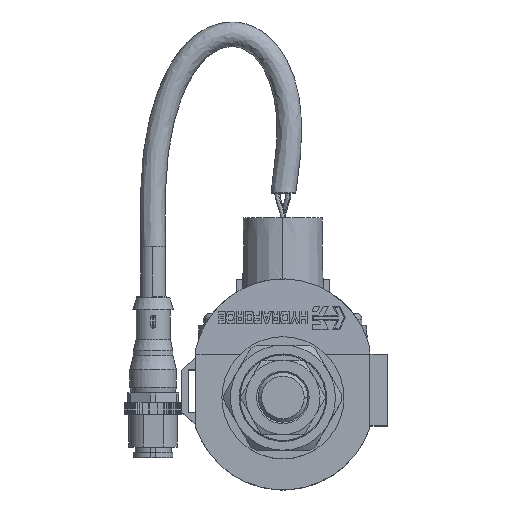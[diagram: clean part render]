
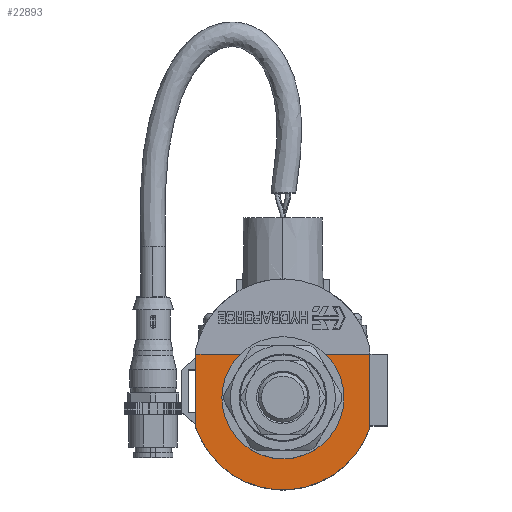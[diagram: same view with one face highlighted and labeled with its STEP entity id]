
A CAD part, top view. The second image highlights one B-rep face of the part: STEP entity #22893.
In plain terms, the highlighted planar face has unit normal (0, 0, 1).
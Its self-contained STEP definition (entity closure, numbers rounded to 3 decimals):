
#5110=DIRECTION('',(-1.,0.,0.));
#5111=VECTOR('',#5110,11.062);
#5112=CARTESIAN_POINT('',(-11.214,11.252,24.384));
#5113=LINE('',#5112,#5111);
#7405=CARTESIAN_POINT('',(0.,0.,24.384));
#7406=DIRECTION('',(0.,0.,1.));
#7407=DIRECTION('',(-0.803,0.596,0.));
#7408=AXIS2_PLACEMENT_3D('',#7405,#7406,#7407);
#7410=CARTESIAN_POINT('',(0.,0.,24.384));
#7411=DIRECTION('',(0.,0.,1.));
#7412=DIRECTION('',(-1.,0.,0.));
#7413=AXIS2_PLACEMENT_3D('',#7410,#7411,#7412);
#7415=CARTESIAN_POINT('',(0.,0.,24.384));
#7416=DIRECTION('',(0.,0.,1.));
#7417=DIRECTION('',(1.,0.,0.));
#7418=AXIS2_PLACEMENT_3D('',#7415,#7416,#7417);
#7420=DIRECTION('',(0.,1.,0.));
#7421=VECTOR('',#7420,2.921);
#7422=CARTESIAN_POINT('',(11.214,8.331,24.384));
#7423=LINE('',#7422,#7421);
#7424=DIRECTION('',(1.,0.,0.));
#7425=VECTOR('',#7424,11.062);
#7426=CARTESIAN_POINT('',(11.214,11.252,24.384));
#7427=LINE('',#7426,#7425);
#7428=DIRECTION('',(0.,-1.,0.));
#7429=VECTOR('',#7428,18.923);
#7430=CARTESIAN_POINT('',(22.276,11.252,24.384));
#7431=LINE('',#7430,#7429);
#7432=CARTESIAN_POINT('',(0.,0.,24.384));
#7433=DIRECTION('',(0.,0.,-1.));
#7434=DIRECTION('',(0.946,-0.326,0.));
#7435=AXIS2_PLACEMENT_3D('',#7432,#7433,#7434);
#7437=DIRECTION('',(0.,1.,0.));
#7438=VECTOR('',#7437,18.923);
#7439=CARTESIAN_POINT('',(-22.276,-7.671,24.384));
#7440=LINE('',#7439,#7438);
#7441=DIRECTION('',(0.,-1.,0.));
#7442=VECTOR('',#7441,2.921);
#7443=CARTESIAN_POINT('',(-11.214,11.252,24.384));
#7444=LINE('',#7443,#7442);
#18833=CARTESIAN_POINT('',(11.214,11.252,24.384));
#18834=CARTESIAN_POINT('',(-11.214,11.252,24.384));
#18835=VERTEX_POINT('',#18833);
#18836=VERTEX_POINT('',#18834);
#18837=CARTESIAN_POINT('',(-22.276,11.252,24.384));
#18838=VERTEX_POINT('',#18837);
#18846=CARTESIAN_POINT('',(22.276,11.252,24.384));
#18847=VERTEX_POINT('',#18846);
#19117=CARTESIAN_POINT('',(-11.214,8.331,24.384));
#19119=VERTEX_POINT('',#19117);
#19126=CARTESIAN_POINT('',(11.214,8.331,24.384));
#19127=VERTEX_POINT('',#19126);
#19315=CARTESIAN_POINT('',(-13.97,0.,24.384));
#19317=VERTEX_POINT('',#19315);
#19356=CARTESIAN_POINT('',(13.97,0.,24.384));
#19357=VERTEX_POINT('',#19356);
#19468=CARTESIAN_POINT('',(22.276,-7.671,24.384));
#19469=VERTEX_POINT('',#19468);
#19470=CARTESIAN_POINT('',(-22.276,-7.671,24.384));
#19471=VERTEX_POINT('',#19470);
#22872=CARTESIAN_POINT('',(0.,11.252,24.384));
#22873=DIRECTION('',(0.,0.,-1.));
#22874=DIRECTION('',(0.,1.,0.));
#22875=AXIS2_PLACEMENT_3D('',#22872,#22873,#22874);
#22876=PLANE('',#22875);
#22877=ORIENTED_EDGE('',*,*,#22757,.T.);
#22878=ORIENTED_EDGE('',*,*,#22580,.T.);
#22879=ORIENTED_EDGE('',*,*,#22701,.T.);
#22881=ORIENTED_EDGE('',*,*,#22880,.T.);
#22882=ORIENTED_EDGE('',*,*,#21670,.T.);
#22884=ORIENTED_EDGE('',*,*,#22883,.T.);
#22886=ORIENTED_EDGE('',*,*,#22885,.T.);
#22888=ORIENTED_EDGE('',*,*,#22887,.T.);
#22889=ORIENTED_EDGE('',*,*,#21658,.F.);
#22890=ORIENTED_EDGE('',*,*,#22032,.T.);
#22891=EDGE_LOOP('',(#22877,#22878,#22879,#22881,#22882,#22884,#22886,#22888,
#22889,#22890));
#22892=FACE_OUTER_BOUND('',#22891,.F.);
#22893=ADVANCED_FACE('',(#22892),#22876,.F.);
#7409=CIRCLE('',#7408,13.97);
#7414=CIRCLE('',#7413,13.97);
#7419=CIRCLE('',#7418,13.97);
#7436=CIRCLE('',#7435,23.56);
#21658=EDGE_CURVE('',#18836,#18838,#5113,.T.);
#21670=EDGE_CURVE('',#18835,#18847,#7427,.T.);
#22032=EDGE_CURVE('',#18836,#19119,#7444,.T.);
#22580=EDGE_CURVE('',#19317,#19357,#7414,.T.);
#22701=EDGE_CURVE('',#19357,#19127,#7419,.T.);
#22757=EDGE_CURVE('',#19119,#19317,#7409,.T.);
#22880=EDGE_CURVE('',#19127,#18835,#7423,.T.);
#22883=EDGE_CURVE('',#18847,#19469,#7431,.T.);
#22885=EDGE_CURVE('',#19469,#19471,#7436,.T.);
#22887=EDGE_CURVE('',#19471,#18838,#7440,.T.);
